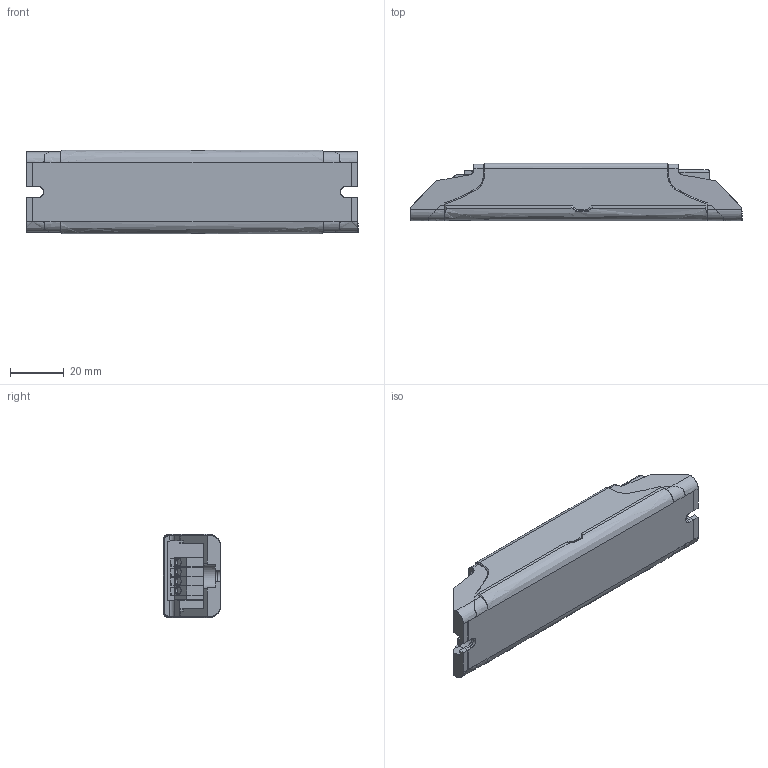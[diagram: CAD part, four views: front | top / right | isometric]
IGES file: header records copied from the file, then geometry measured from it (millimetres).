
Start section: SolidWorks IGES file using analytic representation for surfaces
Global section: file name: D:\ECTR_TEMP\OLQ-batchEngine\queue\temp\4183329swm000.igs; native system: SolidWorks 2017; preprocessor: SolidWorks 2017; author: SYSTEM; date: 200114.103954; units: millimetre
Bounding box: 123.7 x 21.4 x 31.22 mm (x, y, z)
Surface area: 16034.4 mm2 (no closed solid volume)
Topology: 0 solids, 0 shells, 661 faces, 4853 edges, 4853 vertices
Faces by surface type: bspline 549, revolution 112
